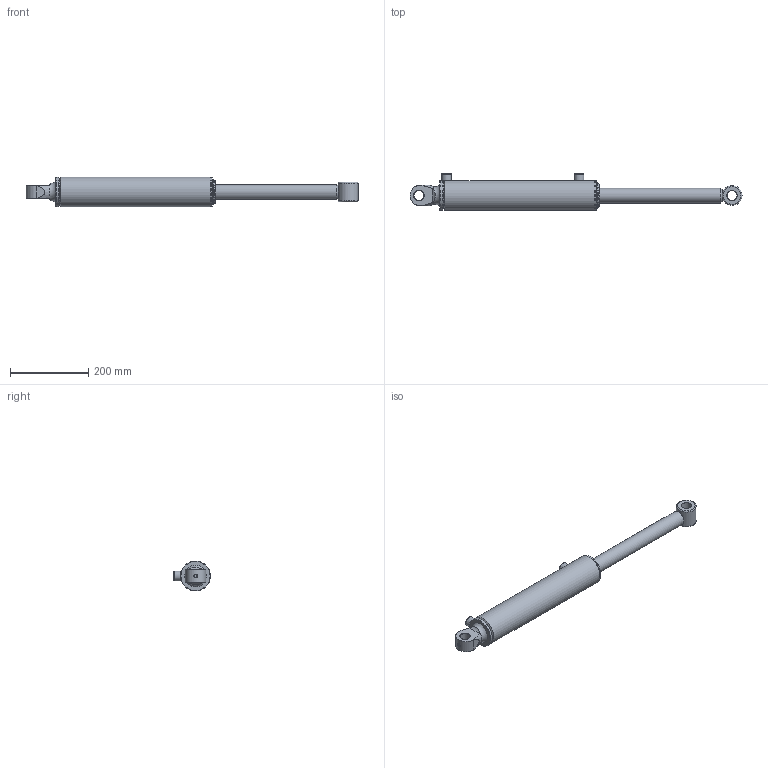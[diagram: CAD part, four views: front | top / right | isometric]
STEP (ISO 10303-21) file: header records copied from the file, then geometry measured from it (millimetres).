
FILE_DESCRIPTION(/* description */ ('Alibre Inc.'),/* implementation_level */ '2;1');
FILE_NAME(/* name */ 'export0',/* time_stamp */ '2016-08-16T09:55:55+12:00',/* author */ (''),/* organization */ (''),/* preprocessor_version */ 'ST-DEVELOPER v14',/* originating_system */ 'Alibre',/* authorisation */ '');
FILE_SCHEMA (('AUTOMOTIVE_DESIGN'));
Length unit declared in the file: centimetre
Bounding box: 846.13 x 94.2 x 76.2 mm (x, y, z)
Volume: 1357141.9 mm3; surface area: 319438.8 mm2
Topology: 12 solids, 12 shells, 150 faces, 308 edges, 192 vertices
Faces by surface type: cylinder 55, plane 51, cone 28, torus 13, sphere 2, bspline 1
Full cylindrical faces by diameter (mm): 2.5 x2, 7 x3, 8.3 x2, 8.8 x1, 15.25 x2, 23 x1, 23.622 x1, 25 x2, 25.4 x2, 25.45 x1, 38.1 x1, 38.18 x2, 38.35 x1, 44.45 x1, 47.62 x2, 47.63 x1, 48 x2, 50.8 x1, 56.5 x1, 57.66 x1, 58.9 x2, 59.87 x2, 60.2 x1, 62.13 x2, 63.39 x2, 63.4 x1, 63.5 x2, 66.7 x1, 76.2 x3
Entity records: 4139 total; most frequent: CARTESIAN_POINT 1185, DIRECTION 569, ORIENTED_EDGE 394, AXIS2_PLACEMENT_3D 300, FACE_BOUND 271, EDGE_LOOP 269, EDGE_CURVE 197, VERTEX_POINT 174
